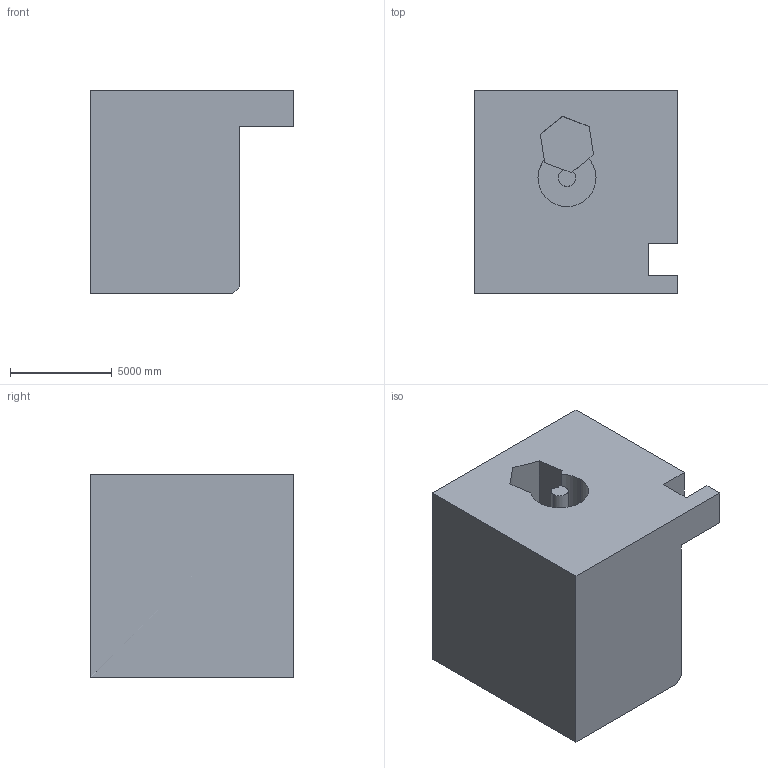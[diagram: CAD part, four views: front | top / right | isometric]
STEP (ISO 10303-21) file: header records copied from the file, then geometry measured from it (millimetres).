
FILE_DESCRIPTION (( 'STEP AP203' ), '1' );
FILE_NAME ('1477.STEP', '2022-08-18T14:42:46', ( 'user' ), ( '' ), 'SwSTEP 2.0', 'SolidWorks 2021', '' );
FILE_SCHEMA (( 'CONFIG_CONTROL_DESIGN' ));
Length unit declared in the file: centimetre
Products named in the file (1): 1477
Bounding box: 10000 x 10000 x 10000 mm (x, y, z)
Volume: 676122635156.3 mm3; surface area: 670536262.5 mm2
Topology: 1 solids, 1 shells, 30 faces, 81 edges, 54 vertices
Faces by surface type: plane 24, cylinder 6
Entity records: 1014 total; most frequent: CARTESIAN_POINT 166, ORIENTED_EDGE 162, DIRECTION 155, EDGE_CURVE 81, LINE 69, VECTOR 69, VERTEX_POINT 54, AXIS2_PLACEMENT_3D 43
